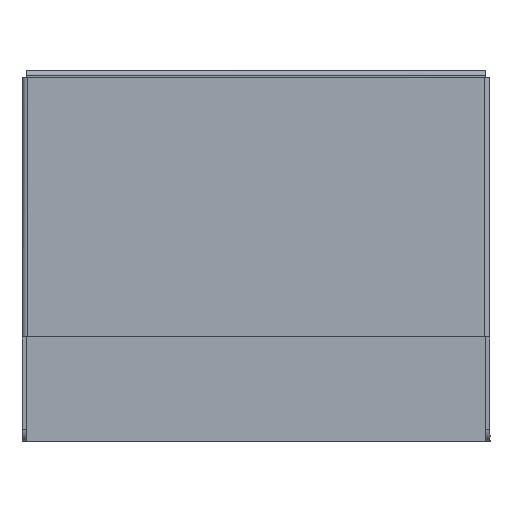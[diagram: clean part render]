
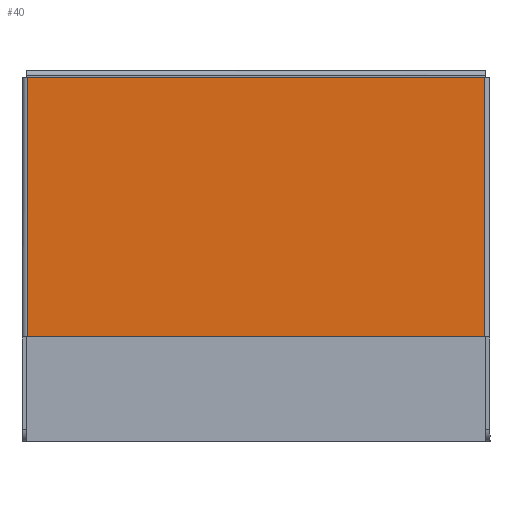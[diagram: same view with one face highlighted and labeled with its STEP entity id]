
A CAD part, top view. The second image highlights one B-rep face of the part: STEP entity #40.
In plain terms, the highlighted planar face has unit normal (0, 0, 1).
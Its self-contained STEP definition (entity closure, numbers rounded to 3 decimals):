
#40=ADVANCED_FACE('',(#116),#1177,.T.);
#116=FACE_OUTER_BOUND('',#192,.T.);
#192=EDGE_LOOP('',(#334,#335,#336,#337));
#334=ORIENTED_EDGE('',*,*,#666,.F.);
#335=ORIENTED_EDGE('',*,*,#681,.T.);
#336=ORIENTED_EDGE('',*,*,#684,.F.);
#337=ORIENTED_EDGE('',*,*,#685,.F.);
#666=EDGE_CURVE('',#1046,#1045,#920,.T.);
#681=EDGE_CURVE('',#1046,#1058,#832,.T.);
#684=EDGE_CURVE('',#1059,#1058,#933,.T.);
#685=EDGE_CURVE('',#1045,#1059,#835,.T.);
#832=(
BOUNDED_CURVE()
B_SPLINE_CURVE(1,(#1556,#1557),.UNSPECIFIED.,.F.,.F.)
B_SPLINE_CURVE_WITH_KNOTS((2,2),(-194.,0.),
 .UNSPECIFIED.)
CURVE()
GEOMETRIC_REPRESENTATION_ITEM()
RATIONAL_B_SPLINE_CURVE((1.,1.))
REPRESENTATION_ITEM('')
);
#835=(
BOUNDED_CURVE()
B_SPLINE_CURVE(1,(#1566,#1567),.UNSPECIFIED.,.F.,.F.)
B_SPLINE_CURVE_WITH_KNOTS((2,2),(-194.,0.),
 .UNSPECIFIED.)
CURVE()
GEOMETRIC_REPRESENTATION_ITEM()
RATIONAL_B_SPLINE_CURVE((1.,1.))
REPRESENTATION_ITEM('')
);
#920=B_SPLINE_CURVE_WITH_KNOTS('',1,(#1526,#1527),.UNSPECIFIED.,.F.,.F.,
(2,2),(-346.,-4.),.UNSPECIFIED.);
#933=B_SPLINE_CURVE_WITH_KNOTS('',1,(#1564,#1565),.UNSPECIFIED.,.F.,.F.,
(2,2),(365.,707.),.UNSPECIFIED.);
#1045=VERTEX_POINT('',#1442);
#1046=VERTEX_POINT('',#1443);
#1058=VERTEX_POINT('',#1455);
#1059=VERTEX_POINT('',#1456);
#1177=PLANE('',#1253);
#1253=AXIS2_PLACEMENT_3D('',#1380,#1313,$);
#1313=DIRECTION('',(0.,0.,1.));
#1380=CARTESIAN_POINT('',(4740.372,-305.541,566.28));
#1442=CARTESIAN_POINT('',(5116.584,-92.129,566.28));
#1443=CARTESIAN_POINT('',(4774.584,-92.129,566.28));
#1455=CARTESIAN_POINT('',(4774.584,-286.129,566.28));
#1456=CARTESIAN_POINT('',(5116.584,-286.129,566.28));
#1526=CARTESIAN_POINT('',(4774.584,-92.129,566.28));
#1527=CARTESIAN_POINT('',(5116.584,-92.129,566.28));
#1556=CARTESIAN_POINT('',(4774.584,-92.129,566.28));
#1557=CARTESIAN_POINT('',(4774.584,-286.129,566.28));
#1564=CARTESIAN_POINT('',(5116.584,-286.129,566.28));
#1565=CARTESIAN_POINT('',(4774.584,-286.129,566.28));
#1566=CARTESIAN_POINT('',(5116.584,-92.129,566.28));
#1567=CARTESIAN_POINT('',(5116.584,-286.129,566.28));
